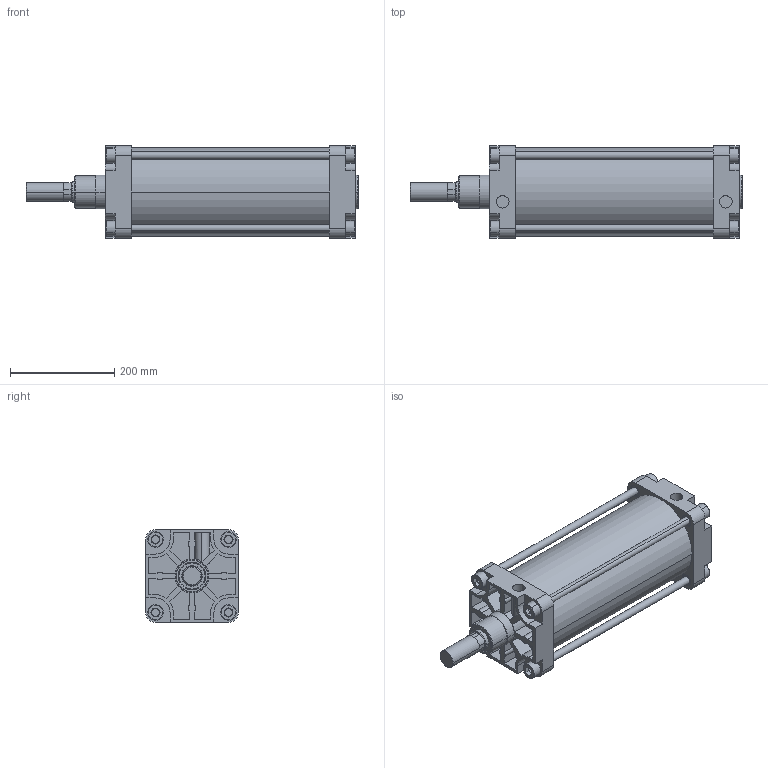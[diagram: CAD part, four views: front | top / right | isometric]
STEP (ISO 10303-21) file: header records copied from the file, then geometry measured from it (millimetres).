
FILE_DESCRIPTION(('CATIA V5 STEP Exchange'),'2;1');
FILE_NAME('D:\stp file for catalog\PNC\160\PNC 160-40-300-00.stp','2015-09-13T12:21:01+00:00',('none'),('none'),'Version 5-6 Release 2012','CATIA V5 STEP AP203','none');
FILE_SCHEMA(('CONFIG_CONTROL_DESIGN'));
Length unit declared in the file: millimetre
Products named in the file (1): PNC 160-40-300-00
Assembly tree (2 placements, depth 2):
  PNC 160-40-300-00
    #58
    #14957
Bounding box: 637 x 178 x 178 mm (x, y, z)
Volume: 5585741.7 mm3; surface area: 980172.1 mm2
Topology: 6 solids, 6 shells, 583 faces, 1428 edges, 932 vertices
Faces by surface type: plane 349, cylinder 186, torus 26, extrusion 16, cone 6
Entity records: 15847 total; most frequent: CARTESIAN_POINT 3275, ORIENTED_EDGE 2856, DIRECTION 1940, EDGE_CURVE 1428, VERTEX_POINT 932, VECTOR 930, LINE 914, AXIS2_PLACEMENT_3D 715
